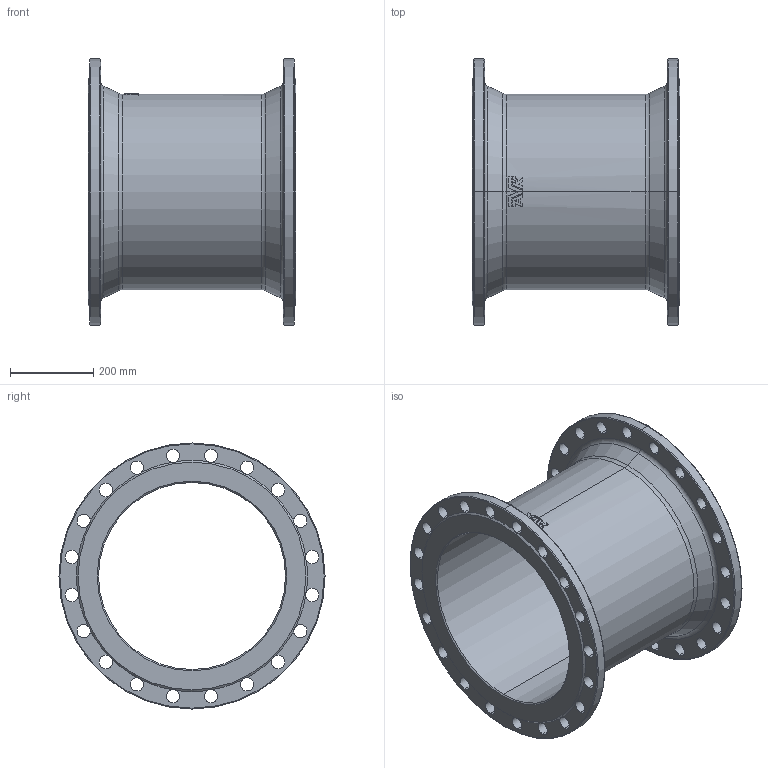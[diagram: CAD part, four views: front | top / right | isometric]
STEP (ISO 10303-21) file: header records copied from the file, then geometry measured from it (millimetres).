
FILE_DESCRIPTION (( 'STEP AP203' ), '1' );
FILE_NAME ('O_712_4810_DN450_1X_REV01.step', '2021-12-02T07:59:53', ( '' ), ( '' ), 'SwSTEP 2.0', 'SolidWorks 2019', '' );
FILE_SCHEMA (( 'CONFIG_CONTROL_DESIGN' ));
Length unit declared in the file: millimetre
Products named in the file (1): O_712_4810_DN450_1X_REV01
Bounding box: 500 x 640 x 640 mm (x, y, z)
Volume: 16626996.7 mm3; surface area: 2064547.4 mm2
Topology: 1 solids, 1 shells, 164 faces, 559 edges, 364 vertices
Faces by surface type: cylinder 93, plane 26, bspline 17, torus 16, cone 12
Entity records: 7786 total; most frequent: CARTESIAN_POINT 2623, ORIENTED_EDGE 1118, DIRECTION 1103, EDGE_CURVE 559, AXIS2_PLACEMENT_3D 478, VERTEX_POINT 364, CIRCLE 330, EDGE_LOOP 213
